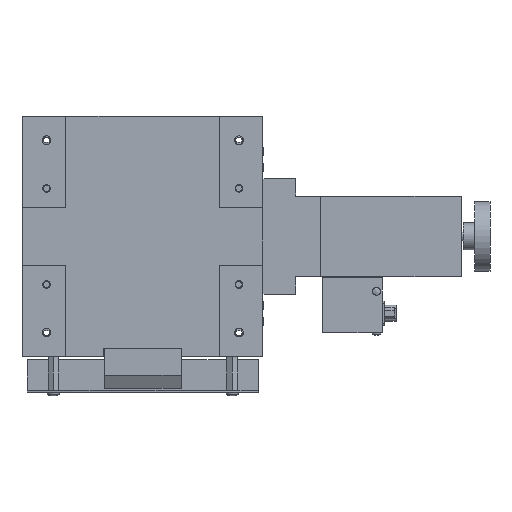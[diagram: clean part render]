
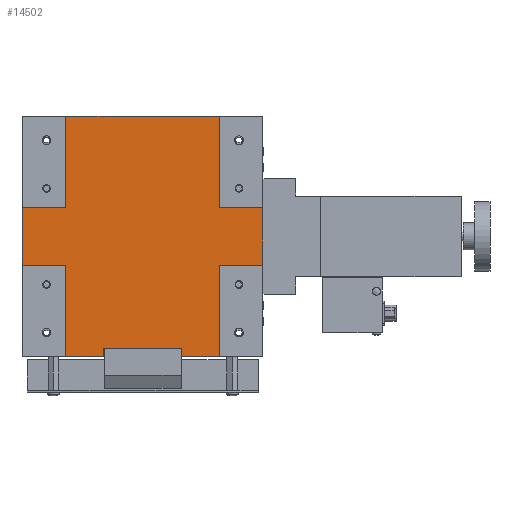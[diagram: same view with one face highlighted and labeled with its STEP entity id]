
A CAD part, front view. The second image highlights one B-rep face of the part: STEP entity #14502.
In plain terms, the highlighted planar face has unit normal (0, -1, 0) as drawn and (0, 0, -1) by its records, which use the part's own axes.
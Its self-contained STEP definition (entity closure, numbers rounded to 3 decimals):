
#1530 = EDGE_LOOP ( 'NONE', ( #4507, #4506, #4504, #4503, #4478, #4501, #4500, #4498, #4496, #4497, #4494, #4495, #4492, #4493, #4490, #4491 ) ) ;
#2154 = EDGE_CURVE ( 'NONE', #13829, #13626, #8456, .T. ) ;
#2157 = EDGE_CURVE ( 'NONE', #13827, #13829, #8469, .T. ) ;
#2159 = EDGE_CURVE ( 'NONE', #13754, #13827, #8475, .T. ) ;
#2161 = EDGE_CURVE ( 'NONE', #13754, #13760, #8481, .T. ) ;
#2165 = EDGE_CURVE ( 'NONE', #13736, #13760, #8493, .T. ) ;
#2167 = EDGE_CURVE ( 'NONE', #13616, #13736, #8499, .T. ) ;
#2169 = EDGE_CURVE ( 'NONE', #13616, #13793, #8505, .T. ) ;
#2172 = EDGE_CURVE ( 'NONE', #13756, #13793, #8514, .T. ) ;
#2174 = EDGE_CURVE ( 'NONE', #13722, #13756, #8520, .T. ) ;
#2176 = EDGE_CURVE ( 'NONE', #13722, #13783, #8526, .T. ) ;
#2180 = EDGE_CURVE ( 'NONE', #13815, #13783, #8538, .T. ) ;
#2182 = EDGE_CURVE ( 'NONE', #13776, #13815, #8544, .T. ) ;
#2184 = EDGE_CURVE ( 'NONE', #13789, #13776, #8550, .T. ) ;
#2191 = EDGE_CURVE ( 'NONE', #13792, #13626, #8564, .T. ) ;
#2192 = EDGE_CURVE ( 'NONE', #13681, #13792, #8575, .T. ) ;
#2193 = EDGE_CURVE ( 'NONE', #13789, #13681, #8563, .T. ) ;
#4478 = ORIENTED_EDGE ( 'NONE', *, *, #2182, .T. ) ;
#4490 = ORIENTED_EDGE ( 'NONE', *, *, #2157, .T. ) ;
#4491 = ORIENTED_EDGE ( 'NONE', *, *, #2154, .T. ) ;
#4492 = ORIENTED_EDGE ( 'NONE', *, *, #2161, .F. ) ;
#4493 = ORIENTED_EDGE ( 'NONE', *, *, #2159, .T. ) ;
#4494 = ORIENTED_EDGE ( 'NONE', *, *, #2167, .T. ) ;
#4495 = ORIENTED_EDGE ( 'NONE', *, *, #2165, .T. ) ;
#4496 = ORIENTED_EDGE ( 'NONE', *, *, #2172, .T. ) ;
#4497 = ORIENTED_EDGE ( 'NONE', *, *, #2169, .F. ) ;
#4498 = ORIENTED_EDGE ( 'NONE', *, *, #2174, .T. ) ;
#4500 = ORIENTED_EDGE ( 'NONE', *, *, #2176, .F. ) ;
#4501 = ORIENTED_EDGE ( 'NONE', *, *, #2180, .T. ) ;
#4503 = ORIENTED_EDGE ( 'NONE', *, *, #2184, .T. ) ;
#4504 = ORIENTED_EDGE ( 'NONE', *, *, #2193, .F. ) ;
#4506 = ORIENTED_EDGE ( 'NONE', *, *, #2192, .F. ) ;
#4507 = ORIENTED_EDGE ( 'NONE', *, *, #2191, .F. ) ;
#5924 = VECTOR ( 'NONE', #8463, 1000. ) ;
#5935 = VECTOR ( 'NONE', #8471, 1000. ) ;
#5937 = VECTOR ( 'NONE', #8477, 1000. ) ;
#5939 = VECTOR ( 'NONE', #8483, 1000. ) ;
#5943 = VECTOR ( 'NONE', #8495, 1000. ) ;
#5945 = VECTOR ( 'NONE', #8501, 1000. ) ;
#5947 = VECTOR ( 'NONE', #8507, 1000. ) ;
#5950 = VECTOR ( 'NONE', #8516, 1000. ) ;
#5952 = VECTOR ( 'NONE', #8522, 1000. ) ;
#5954 = VECTOR ( 'NONE', #8528, 1000. ) ;
#5958 = VECTOR ( 'NONE', #8540, 1000. ) ;
#5960 = VECTOR ( 'NONE', #8546, 1000. ) ;
#5962 = VECTOR ( 'NONE', #8552, 1000. ) ;
#5964 = VECTOR ( 'NONE', #8574, 1000. ) ;
#5971 = VECTOR ( 'NONE', #8580, 1000. ) ;
#5972 = VECTOR ( 'NONE', #8578, 1000. ) ;
#8456 = LINE ( 'NONE', #8461, #5924 ) ;
#8461 = CARTESIAN_POINT ( 'NONE',  ( 0., -62.5, 0.5 ) ) ;
#8463 = DIRECTION ( 'NONE',  ( -1., 0., 0. ) ) ;
#8469 = LINE ( 'NONE', #8470, #5935 ) ;
#8470 = CARTESIAN_POINT ( 'NONE',  ( 40., -62.5, 0.5 ) ) ;
#8471 = DIRECTION ( 'NONE',  ( 0., -1., 0. ) ) ;
#8475 = LINE ( 'NONE', #8476, #5937 ) ;
#8476 = CARTESIAN_POINT ( 'NONE',  ( 40., -15., 0.5 ) ) ;
#8477 = DIRECTION ( 'NONE',  ( -1., 0., 0. ) ) ;
#8481 = LINE ( 'NONE', #8482, #5939 ) ;
#8482 = CARTESIAN_POINT ( 'NONE',  ( 62.5, 62.5, 0.5 ) ) ;
#8483 = DIRECTION ( 'NONE',  ( 0., 1., 0. ) ) ;
#8493 = LINE ( 'NONE', #8494, #5943 ) ;
#8494 = CARTESIAN_POINT ( 'NONE',  ( 40., 15., 0.5 ) ) ;
#8495 = DIRECTION ( 'NONE',  ( 1., 0., 0. ) ) ;
#8499 = LINE ( 'NONE', #8500, #5945 ) ;
#8500 = CARTESIAN_POINT ( 'NONE',  ( 40., 15., 0.5 ) ) ;
#8501 = DIRECTION ( 'NONE',  ( 0., -1., 0. ) ) ;
#8505 = LINE ( 'NONE', #8506, #5947 ) ;
#8506 = CARTESIAN_POINT ( 'NONE',  ( 0., 62.5, 0.5 ) ) ;
#8507 = DIRECTION ( 'NONE',  ( -1., 0., 0. ) ) ;
#8514 = LINE ( 'NONE', #8515, #5950 ) ;
#8515 = CARTESIAN_POINT ( 'NONE',  ( -40., 15., 0.5 ) ) ;
#8516 = DIRECTION ( 'NONE',  ( 0., 1., 0. ) ) ;
#8520 = LINE ( 'NONE', #8521, #5952 ) ;
#8521 = CARTESIAN_POINT ( 'NONE',  ( -62.5, 15., 0.5 ) ) ;
#8522 = DIRECTION ( 'NONE',  ( 1., 0., 0. ) ) ;
#8526 = LINE ( 'NONE', #8527, #5954 ) ;
#8527 = CARTESIAN_POINT ( 'NONE',  ( -62.5, 62.5, 0.5 ) ) ;
#8528 = DIRECTION ( 'NONE',  ( 0., -1., 0. ) ) ;
#8538 = LINE ( 'NONE', #8539, #5958 ) ;
#8539 = CARTESIAN_POINT ( 'NONE',  ( -62.5, -15., 0.5 ) ) ;
#8540 = DIRECTION ( 'NONE',  ( -1., 0., 0. ) ) ;
#8544 = LINE ( 'NONE', #8545, #5960 ) ;
#8545 = CARTESIAN_POINT ( 'NONE',  ( -40., -62.5, 0.5 ) ) ;
#8546 = DIRECTION ( 'NONE',  ( 0., 1., 0. ) ) ;
#8550 = LINE ( 'NONE', #8551, #5962 ) ;
#8551 = CARTESIAN_POINT ( 'NONE',  ( 0., -62.5, 0.5 ) ) ;
#8552 = DIRECTION ( 'NONE',  ( -1., 0., 0. ) ) ;
#8563 = LINE ( 'NONE', #8579, #5971 ) ;
#8564 = LINE ( 'NONE', #8573, #5964 ) ;
#8573 = CARTESIAN_POINT ( 'NONE',  ( 20.2, 0., 0.5 ) ) ;
#8574 = DIRECTION ( 'NONE',  ( 0., -1., 0. ) ) ;
#8575 = LINE ( 'NONE', #8577, #5972 ) ;
#8577 = CARTESIAN_POINT ( 'NONE',  ( 0., -58., 0.5 ) ) ;
#8578 = DIRECTION ( 'NONE',  ( 1., 0., 0. ) ) ;
#8579 = CARTESIAN_POINT ( 'NONE',  ( -20.2, 0., 0.5 ) ) ;
#8580 = DIRECTION ( 'NONE',  ( 0., 1., 0. ) ) ;
#10896 = CARTESIAN_POINT ( 'NONE',  ( 40., 62.5, 0.5 ) ) ;
#10906 = CARTESIAN_POINT ( 'NONE',  ( 20.2, -62.5, 0.5 ) ) ;
#10958 = CARTESIAN_POINT ( 'NONE',  ( -20.2, -58., 0.5 ) ) ;
#10987 = CARTESIAN_POINT ( 'NONE',  ( -62.5, 15., 0.5 ) ) ;
#10998 = CARTESIAN_POINT ( 'NONE',  ( 40., 15., 0.5 ) ) ;
#11013 = CARTESIAN_POINT ( 'NONE',  ( 62.5, -15., 0.5 ) ) ;
#11015 = CARTESIAN_POINT ( 'NONE',  ( -40., 15., 0.5 ) ) ;
#11018 = CARTESIAN_POINT ( 'NONE',  ( 62.5, 15., 0.5 ) ) ;
#11031 = CARTESIAN_POINT ( 'NONE',  ( -40., -62.5, 0.5 ) ) ;
#11036 = CARTESIAN_POINT ( 'NONE',  ( -20.2, -62.5, 0.5 ) ) ;
#11037 = CARTESIAN_POINT ( 'NONE',  ( -62.5, -15., 0.5 ) ) ;
#11050 = CARTESIAN_POINT ( 'NONE',  ( 20.2, -58., 0.5 ) ) ;
#11051 = CARTESIAN_POINT ( 'NONE',  ( -40., 62.5, 0.5 ) ) ;
#11070 = CARTESIAN_POINT ( 'NONE',  ( -40., -15., 0.5 ) ) ;
#11082 = CARTESIAN_POINT ( 'NONE',  ( 40., -15., 0.5 ) ) ;
#11084 = CARTESIAN_POINT ( 'NONE',  ( 40., -62.5, 0.5 ) ) ;
#12328 = AXIS2_PLACEMENT_3D ( 'NONE', #12788, #12795, #12796 ) ;
#12788 = CARTESIAN_POINT ( 'NONE',  ( 0., 0., 0.5 ) ) ;
#12792 = FACE_OUTER_BOUND ( 'NONE', #1530, .T. ) ;
#12793 = PLANE ( 'NONE',  #12328 ) ;
#12795 = DIRECTION ( 'NONE',  ( 0., 0., 1. ) ) ;
#12796 = DIRECTION ( 'NONE',  ( 0., 1., 0. ) ) ;
#13616 = VERTEX_POINT ( 'NONE', #10896 ) ;
#13626 = VERTEX_POINT ( 'NONE', #10906 ) ;
#13681 = VERTEX_POINT ( 'NONE', #10958 ) ;
#13722 = VERTEX_POINT ( 'NONE', #10987 ) ;
#13736 = VERTEX_POINT ( 'NONE', #10998 ) ;
#13754 = VERTEX_POINT ( 'NONE', #11013 ) ;
#13756 = VERTEX_POINT ( 'NONE', #11015 ) ;
#13760 = VERTEX_POINT ( 'NONE', #11018 ) ;
#13776 = VERTEX_POINT ( 'NONE', #11031 ) ;
#13783 = VERTEX_POINT ( 'NONE', #11037 ) ;
#13789 = VERTEX_POINT ( 'NONE', #11036 ) ;
#13792 = VERTEX_POINT ( 'NONE', #11050 ) ;
#13793 = VERTEX_POINT ( 'NONE', #11051 ) ;
#13815 = VERTEX_POINT ( 'NONE', #11070 ) ;
#13827 = VERTEX_POINT ( 'NONE', #11082 ) ;
#13829 = VERTEX_POINT ( 'NONE', #11084 ) ;
#14502 = ADVANCED_FACE ( 'NONE', ( #12792 ), #12793, .F. ) ;
